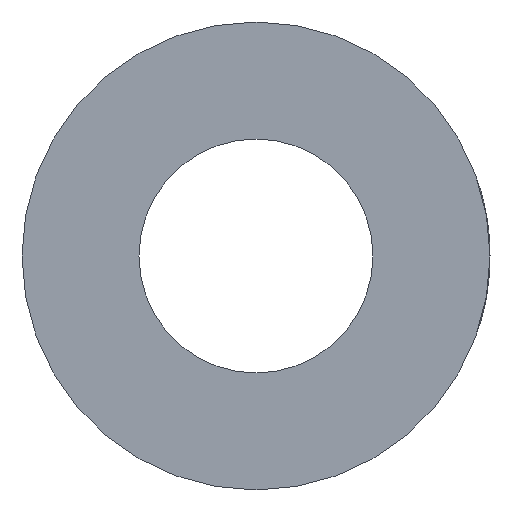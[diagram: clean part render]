
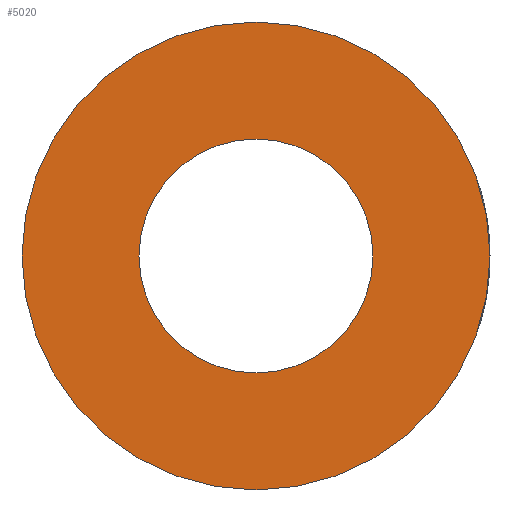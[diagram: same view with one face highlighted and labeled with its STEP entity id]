
A CAD part, left-side view. The second image highlights one B-rep face of the part: STEP entity #5020.
In plain terms, the highlighted planar face has unit normal (-1, 0, 0).
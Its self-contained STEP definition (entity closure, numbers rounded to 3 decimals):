
#112=PLANE('',#5412);
#534=CIRCLE('',#5411,8.);
#535=CIRCLE('',#5413,4.);
#849=ORIENTED_EDGE('',*,*,#2361,.T.);
#850=ORIENTED_EDGE('',*,*,#2360,.F.);
#2360=EDGE_CURVE('',#3116,#3116,#534,.T.);
#2361=EDGE_CURVE('',#3117,#3117,#535,.T.);
#3116=VERTEX_POINT('',#7807);
#3117=VERTEX_POINT('',#7810);
#4271=EDGE_LOOP('',(#849));
#4272=EDGE_LOOP('',(#850));
#4639=FACE_BOUND('',#4271,.T.);
#4640=FACE_BOUND('',#4272,.T.);
#5020=ADVANCED_FACE('',(#4639,#4640),#112,.F.);
#5411=AXIS2_PLACEMENT_3D('',#7806,#5936,#5937);
#5412=AXIS2_PLACEMENT_3D('',#7808,#5938,#5939);
#5413=AXIS2_PLACEMENT_3D('',#7809,#5940,#5941);
#5936=DIRECTION('',(1.,0.,0.));
#5937=DIRECTION('',(0.,0.,-1.));
#5938=DIRECTION('',(1.,0.,0.));
#5939=DIRECTION('',(0.,0.,-1.));
#5940=DIRECTION('',(1.,0.,0.));
#5941=DIRECTION('',(0.,0.,-1.));
#7806=CARTESIAN_POINT('',(-12.5,0.,0.));
#7807=CARTESIAN_POINT('',(-12.5,0.,-8.));
#7808=CARTESIAN_POINT('',(-12.5,0.,0.));
#7809=CARTESIAN_POINT('',(-12.5,0.,0.));
#7810=CARTESIAN_POINT('',(-12.5,0.,-4.));
